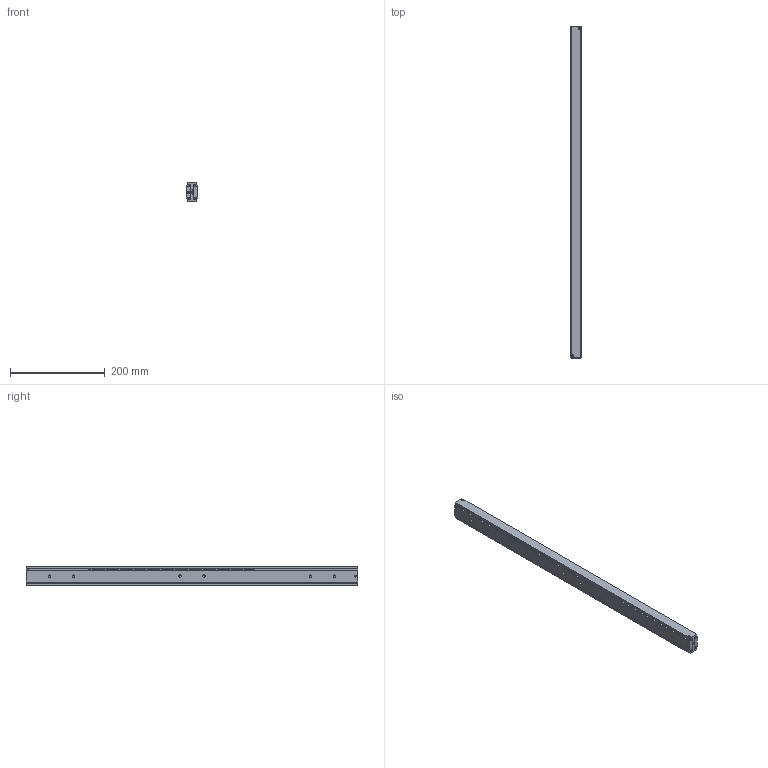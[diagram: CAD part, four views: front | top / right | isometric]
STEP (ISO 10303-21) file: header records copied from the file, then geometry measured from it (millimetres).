
FILE_DESCRIPTION(/* description */ (''),/* implementation_level */ '2;1');
FILE_NAME(/* name */ 'C:\Users\Miluxor\Desktop\Miluxor Schienen\Original Zeichnungen\Zeichnungen Schienen Komplett\MX-DTP40\MX-DTP40.070\MX-DTP40.070_geschlossen.stp',/* time_stamp */ '2018-03-31T11:13:50+02:00',/* author */ ('Miluxor'),/* organization */ (''),/* preprocessor_version */ 'ST-DEVELOPER v16.13',/* originating_system */ 'AutoCAD Mechanical',/* authorisation */ '');
FILE_SCHEMA (('AUTOMOTIVE_DESIGN { 1 0 10303 214 3 1 1 }'));
Products named in the file (1): Product
Bounding box: 24 x 700 x 40.5 mm (x, y, z)
Volume: 534274.8 mm3; surface area: 272759.8 mm2
Topology: 95 solids, 95 shells, 618 faces, 1583 edges, 1054 vertices
Faces by surface type: plane 392, cylinder 88, bspline 68, sphere 56, cone 8, torus 6
Full cylindrical faces by diameter (mm): 4 x2, 5 x12, 6 x56, 10 x2
Entity records: 55219 total; most frequent: CARTESIAN_POINT 41086, ORIENTED_EDGE 2744, DIRECTION 2556, EDGE_CURVE 1372, VERTEX_POINT 1038, LINE 930, VECTOR 930, EDGE_LOOP 848
